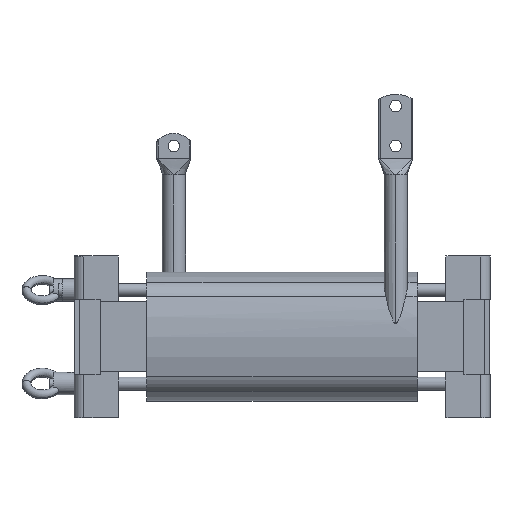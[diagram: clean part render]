
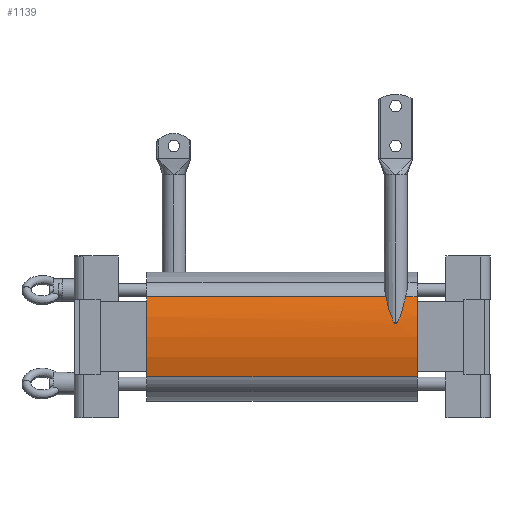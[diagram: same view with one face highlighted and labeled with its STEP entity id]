
A CAD part, left-side view. The second image highlights one B-rep face of the part: STEP entity #1139.
In plain terms, the highlighted cylindrical face has radius 150.864 mm (diameter 301.727 mm), a partial arc.
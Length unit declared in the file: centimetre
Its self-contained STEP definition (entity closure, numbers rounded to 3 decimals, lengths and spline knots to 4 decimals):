
#30 = CARTESIAN_POINT ( 'NONE',  ( -7.5636, 57.9485, 0. ) ) ;
#296 = VERTEX_POINT ( 'NONE', #15670 ) ;
#389 = ORIENTED_EDGE ( 'NONE', *, *, #13770, .F. ) ;
#508 = CARTESIAN_POINT ( 'NONE',  ( -22.316, 9.7143, 3.1674 ) ) ;
#1002 = CARTESIAN_POINT ( 'NONE',  ( -7.5636, 8.1, 0. ) ) ;
#1102 = CARTESIAN_POINT ( 'NONE',  ( -22.4145, 11.1259, 2.6582 ) ) ;
#1139 = ADVANCED_FACE ( 'NONE', ( #14948 ), #18437, .T. ) ;
#1209 = CARTESIAN_POINT ( 'NONE',  ( -22.5481, 10.7619, 1.7505 ) ) ;
#1226 = CARTESIAN_POINT ( 'NONE',  ( -21.9801, 57.9485, -4.4456 ) ) ;
#1308 = CARTESIAN_POINT ( 'NONE',  ( -22.0591, 11.5395, 4.1894 ) ) ;
#1492 = CARTESIAN_POINT ( 'NONE',  ( -22.5746, 10.464, 1.5067 ) ) ;
#1571 = VERTEX_POINT ( 'NONE', #10748 ) ;
#1655 = CARTESIAN_POINT ( 'NONE',  ( -21.9801, 8.1, 4.4456 ) ) ;
#1785 = CARTESIAN_POINT ( 'NONE',  ( -21.9801, 38.21, 4.4456 ) ) ;
#1844 = B_SPLINE_CURVE_WITH_KNOTS ( 'NONE', 3,
 ( #14488, #1308, #17665, #9470, #6315, #11217, #1102, #7959, #11116, #16123, #17769, #21041, #14594, #1209, #2838, #4676, #6429, #19615, #19304, #14383, #7853, #21253, #9686, #14696, #6111, #2630 ),
 .UNSPECIFIED., .F., .F.,
 ( 4, 2, 2, 2, 2, 2, 2, 2, 2, 2, 2, 2, 4 ),
 ( 0., 0.0081, 0.0162, 0.0203, 0.0244, 0.0264, 0.0284, 0.0294, 0.0305, 0.0315, 0.032, 0.0322, 0.0325 ),
 .UNSPECIFIED. ) ;
#2134 = CARTESIAN_POINT ( 'NONE',  ( -22.3914, 9.8307, 2.7846 ) ) ;
#2247 = CARTESIAN_POINT ( 'NONE',  ( -22.059, 9.4572, 4.1898 ) ) ;
#2291 = ORIENTED_EDGE ( 'NONE', *, *, #11864, .T. ) ;
#2630 = CARTESIAN_POINT ( 'NONE',  ( -22.575, 10.4984, 1.5024 ) ) ;
#2838 = CARTESIAN_POINT ( 'NONE',  ( -22.5516, 10.7448, 1.7208 ) ) ;
#2974 = LINE ( 'NONE', #16260, #21030 ) ;
#3024 = AXIS2_PLACEMENT_3D ( 'NONE', #18146, #3108, #3325 ) ;
#3108 = DIRECTION ( 'NONE',  ( 0., -1., 0. ) ) ;
#3135 = CARTESIAN_POINT ( 'NONE',  ( -22.5749, 10.481, 1.5033 ) ) ;
#3275 = EDGE_CURVE ( 'NONE', #1571, #296, #1844, .T. ) ;
#3325 = DIRECTION ( 'NONE',  ( 0., 0., -1. ) ) ;
#3783 = EDGE_CURVE ( 'NONE', #296, #17492, #18660, .T. ) ;
#4442 = CIRCLE ( 'NONE', #17320, 15.0864 ) ;
#4676 = CARTESIAN_POINT ( 'NONE',  ( -22.5581, 10.7083, 1.6631 ) ) ;
#4759 = CIRCLE ( 'NONE', #3024, 15.0864 ) ;
#5368 = VERTEX_POINT ( 'NONE', #9038 ) ;
#5404 = CARTESIAN_POINT ( 'NONE',  ( -22.5667, 10.3513, 1.5831 ) ) ;
#5516 = CARTESIAN_POINT ( 'NONE',  ( -22.5481, 10.2348, 1.7508 ) ) ;
#5621 = CARTESIAN_POINT ( 'NONE',  ( -22.558, 10.2882, 1.6635 ) ) ;
#5800 = AXIS2_PLACEMENT_3D ( 'NONE', #30, #6673, #13315 ) ;
#6111 = CARTESIAN_POINT ( 'NONE',  ( -22.575, 10.507, 1.5024 ) ) ;
#6315 = CARTESIAN_POINT ( 'NONE',  ( -22.316, 11.2825, 3.1674 ) ) ;
#6401 = CARTESIAN_POINT ( 'NONE',  ( -22.575, 10.4897, 1.5024 ) ) ;
#6429 = CARTESIAN_POINT ( 'NONE',  ( -22.5612, 10.6889, 1.6351 ) ) ;
#6673 = DIRECTION ( 'NONE',  ( 0., -1., 0. ) ) ;
#7155 = CARTESIAN_POINT ( 'NONE',  ( -21.9801, 9.4062, 4.4456 ) ) ;
#7853 = CARTESIAN_POINT ( 'NONE',  ( -22.5734, 10.5649, 1.5184 ) ) ;
#7959 = CARTESIAN_POINT ( 'NONE',  ( -22.4577, 11.0402, 2.4045 ) ) ;
#7974 = LINE ( 'NONE', #1226, #12972 ) ;
#9038 = CARTESIAN_POINT ( 'NONE',  ( -21.9801, 8.1, -4.4456 ) ) ;
#9172 = ORIENTED_EDGE ( 'NONE', *, *, #17511, .T. ) ;
#9470 = CARTESIAN_POINT ( 'NONE',  ( -22.259, 11.3528, 3.4227 ) ) ;
#9471 = CARTESIAN_POINT ( 'NONE',  ( -21.9801, 9.4062, 4.4456 ) ) ;
#9486 = DIRECTION ( 'NONE',  ( 0., -1., 0. ) ) ;
#9686 = CARTESIAN_POINT ( 'NONE',  ( -22.5746, 10.5325, 1.5066 ) ) ;
#10300 = VERTEX_POINT ( 'NONE', #1785 ) ;
#10632 = CARTESIAN_POINT ( 'NONE',  ( -22.1304, 9.5153, 3.9341 ) ) ;
#10704 = DIRECTION ( 'NONE',  ( 0., -1., 0. ) ) ;
#10747 = CARTESIAN_POINT ( 'NONE',  ( -22.4147, 9.8712, 2.657 ) ) ;
#10748 = CARTESIAN_POINT ( 'NONE',  ( -21.9801, 11.5906, 4.4456 ) ) ;
#11116 = CARTESIAN_POINT ( 'NONE',  ( -22.4776, 10.995, 2.278 ) ) ;
#11217 = CARTESIAN_POINT ( 'NONE',  ( -22.3912, 11.1664, 2.7854 ) ) ;
#11864 = EDGE_CURVE ( 'NONE', #15905, #5368, #7974, .T. ) ;
#11935 = CARTESIAN_POINT ( 'NONE',  ( -22.5692, 10.3755, 1.559 ) ) ;
#11980 = VERTEX_POINT ( 'NONE', #1655 ) ;
#12040 = CARTESIAN_POINT ( 'NONE',  ( -22.5515, 10.2517, 1.7213 ) ) ;
#12155 = CARTESIAN_POINT ( 'NONE',  ( -22.5298, 10.1575, 1.9013 ) ) ;
#12375 = CARTESIAN_POINT ( 'NONE',  ( -22.2589, 9.6439, 3.423 ) ) ;
#12549 = CARTESIAN_POINT ( 'NONE',  ( -21.9801, 57.9485, 4.4456 ) ) ;
#12852 = DIRECTION ( 'NONE',  ( 0., 0., 1. ) ) ;
#12972 = VECTOR ( 'NONE', #9486, 100. ) ;
#13315 = DIRECTION ( 'NONE',  ( 0., 0., -1. ) ) ;
#13472 = CARTESIAN_POINT ( 'NONE',  ( -22.575, 10.4984, 1.5024 ) ) ;
#13770 = EDGE_CURVE ( 'NONE', #17492, #11980, #2974, .T. ) ;
#13898 = CARTESIAN_POINT ( 'NONE',  ( -22.5137, 10.1027, 2.0247 ) ) ;
#13900 = ORIENTED_EDGE ( 'NONE', *, *, #3275, .F. ) ;
#14383 = CARTESIAN_POINT ( 'NONE',  ( -22.5725, 10.5796, 1.5269 ) ) ;
#14488 = CARTESIAN_POINT ( 'NONE',  ( -21.9801, 11.5906, 4.4456 ) ) ;
#14489 = DIRECTION ( 'NONE',  ( 0., 1., 0. ) ) ;
#14594 = CARTESIAN_POINT ( 'NONE',  ( -22.5374, 10.8105, 1.8407 ) ) ;
#14696 = CARTESIAN_POINT ( 'NONE',  ( -22.5749, 10.5156, 1.5033 ) ) ;
#14781 = CARTESIAN_POINT ( 'NONE',  ( -22.5743, 10.4558, 1.5092 ) ) ;
#14937 = ORIENTED_EDGE ( 'NONE', *, *, #3783, .F. ) ;
#14948 = FACE_OUTER_BOUND ( 'NONE', #20775, .T. ) ;
#15270 = DIRECTION ( 'NONE',  ( 0., -1., 0. ) ) ;
#15522 = EDGE_CURVE ( 'NONE', #10300, #1571, #20952, .T. ) ;
#15644 = CARTESIAN_POINT ( 'NONE',  ( -22.458, 9.9573, 2.4025 ) ) ;
#15670 = CARTESIAN_POINT ( 'NONE',  ( -22.575, 10.4984, 1.5024 ) ) ;
#15905 = VERTEX_POINT ( 'NONE', #21348 ) ;
#16123 = CARTESIAN_POINT ( 'NONE',  ( -22.5047, 10.9208, 2.0895 ) ) ;
#16260 = CARTESIAN_POINT ( 'NONE',  ( -21.9801, 57.9485, 4.4456 ) ) ;
#17170 = CARTESIAN_POINT ( 'NONE',  ( -22.5375, 10.1865, 1.8403 ) ) ;
#17282 = CARTESIAN_POINT ( 'NONE',  ( -22.5654, 10.34, 1.5958 ) ) ;
#17320 = AXIS2_PLACEMENT_3D ( 'NONE', #1002, #14489, #12852 ) ;
#17492 = VERTEX_POINT ( 'NONE', #9471 ) ;
#17511 = EDGE_CURVE ( 'NONE', #5368, #11980, #4442, .T. ) ;
#17665 = CARTESIAN_POINT ( 'NONE',  ( -22.1305, 11.4814, 3.9336 ) ) ;
#17769 = CARTESIAN_POINT ( 'NONE',  ( -22.5134, 10.895, 2.0269 ) ) ;
#17946 = ORIENTED_EDGE ( 'NONE', *, *, #19253, .T. ) ;
#18146 = CARTESIAN_POINT ( 'NONE',  ( -7.5636, 38.21, 0. ) ) ;
#18170 = CARTESIAN_POINT ( 'NONE',  ( -22.5704, 10.3886, 1.5475 ) ) ;
#18437 = CYLINDRICAL_SURFACE ( 'NONE', #5800, 15.0864 ) ;
#18660 = B_SPLINE_CURVE_WITH_KNOTS ( 'NONE', 3,
 ( #13472, #6401, #3135, #1492, #14781, #21441, #19809, #18170, #11935, #5404, #17282, #20675, #5621, #12040, #5516, #17170, #12155, #13898, #20454, #18813, #15644, #10747, #2134, #508, #12375, #10632, #2247, #7155 ),
 .UNSPECIFIED., .F., .F.,
 ( 4, 2, 2, 2, 2, 2, 2, 2, 2, 2, 2, 2, 2, 4 ),
 ( 0.0325, 0.0328, 0.033, 0.0335, 0.034, 0.0345, 0.0356, 0.0366, 0.0386, 0.0406, 0.0447, 0.0488, 0.0569, 0.0651 ),
 .UNSPECIFIED. ) ;
#18813 = CARTESIAN_POINT ( 'NONE',  ( -22.478, 10.0028, 2.2753 ) ) ;
#19253 = EDGE_CURVE ( 'NONE', #10300, #15905, #4759, .T. ) ;
#19304 = CARTESIAN_POINT ( 'NONE',  ( -22.5695, 10.6215, 1.5569 ) ) ;
#19615 = CARTESIAN_POINT ( 'NONE',  ( -22.5668, 10.6455, 1.5821 ) ) ;
#19780 = ORIENTED_EDGE ( 'NONE', *, *, #15522, .F. ) ;
#19809 = CARTESIAN_POINT ( 'NONE',  ( -22.5725, 10.4165, 1.5273 ) ) ;
#20454 = CARTESIAN_POINT ( 'NONE',  ( -22.5051, 10.077, 2.087 ) ) ;
#20675 = CARTESIAN_POINT ( 'NONE',  ( -22.5611, 10.3077, 1.6354 ) ) ;
#20775 = EDGE_LOOP ( 'NONE', ( #13900, #19780, #17946, #2291, #9172, #389, #14937 ) ) ;
#20952 = LINE ( 'NONE', #12549, #21431 ) ;
#21030 = VECTOR ( 'NONE', #15270, 100. ) ;
#21041 = CARTESIAN_POINT ( 'NONE',  ( -22.5297, 10.8398, 1.9025 ) ) ;
#21253 = CARTESIAN_POINT ( 'NONE',  ( -22.5743, 10.5409, 1.5091 ) ) ;
#21348 = CARTESIAN_POINT ( 'NONE',  ( -21.9801, 38.21, -4.4456 ) ) ;
#21431 = VECTOR ( 'NONE', #10704, 100. ) ;
#21441 = CARTESIAN_POINT ( 'NONE',  ( -22.5734, 10.4314, 1.5186 ) ) ;
